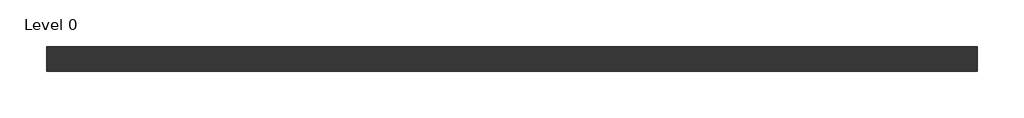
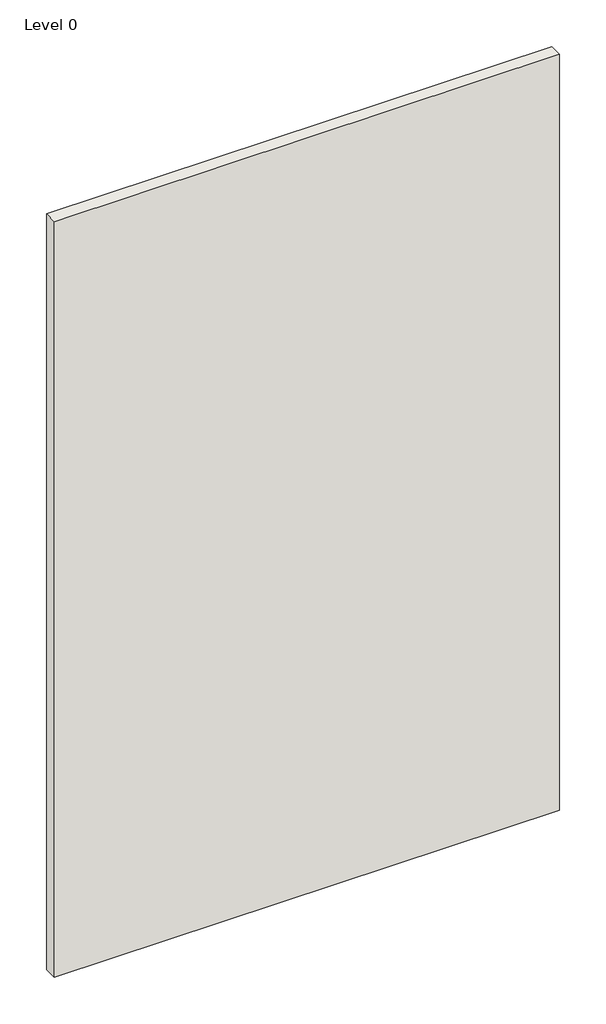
# One storey: 1 wall.
"""IFC4 building model written with IfcOpenShell, lengths in millimetres."""

from ifc_helpers import new_model, si_unit, origin, origin_with_axes, place, context, project, spatial, polyline, outline, extrude, element, save

model = new_model("IFC4")

# Units and contexts
model_context = context("Model", 3, world=origin())
ifc_project = project(units=[si_unit("LENGTHUNIT", "METRE", prefix="MILLI")], contexts=[model_context])

# Site, building, storey
site = spatial("IfcSite", under=ifc_project)
building = spatial("IfcBuilding", under=site)
storey = spatial("IfcBuildingStorey", under=building, Name="Level 0", Elevation=0.0)

# Wall
placement = place(None, origin())
element("IfcWall", 1, ObjectType="B216025(d) - GypLyner IWL", at=placement, inside=storey, context=model_context, shape_type="SweptSolid", body=[
    extrude(outline(polyline([(1155.997948, 514.0169953), (-1944.002052, 514.0169953), (-1944.002052, 596.5169953), (1155.997948, 596.5169953), (1155.997948, 514.0169953)])), origin_with_axes(), (0.0, 0.0, 1.0), 4900.0),
])

save(model, "model.ifc")
